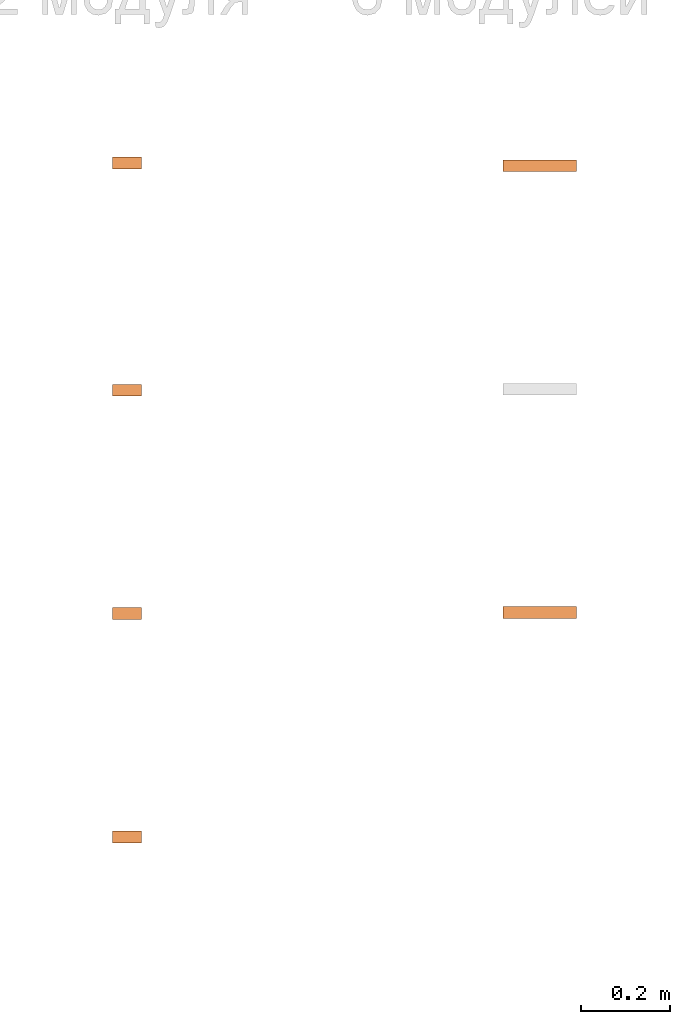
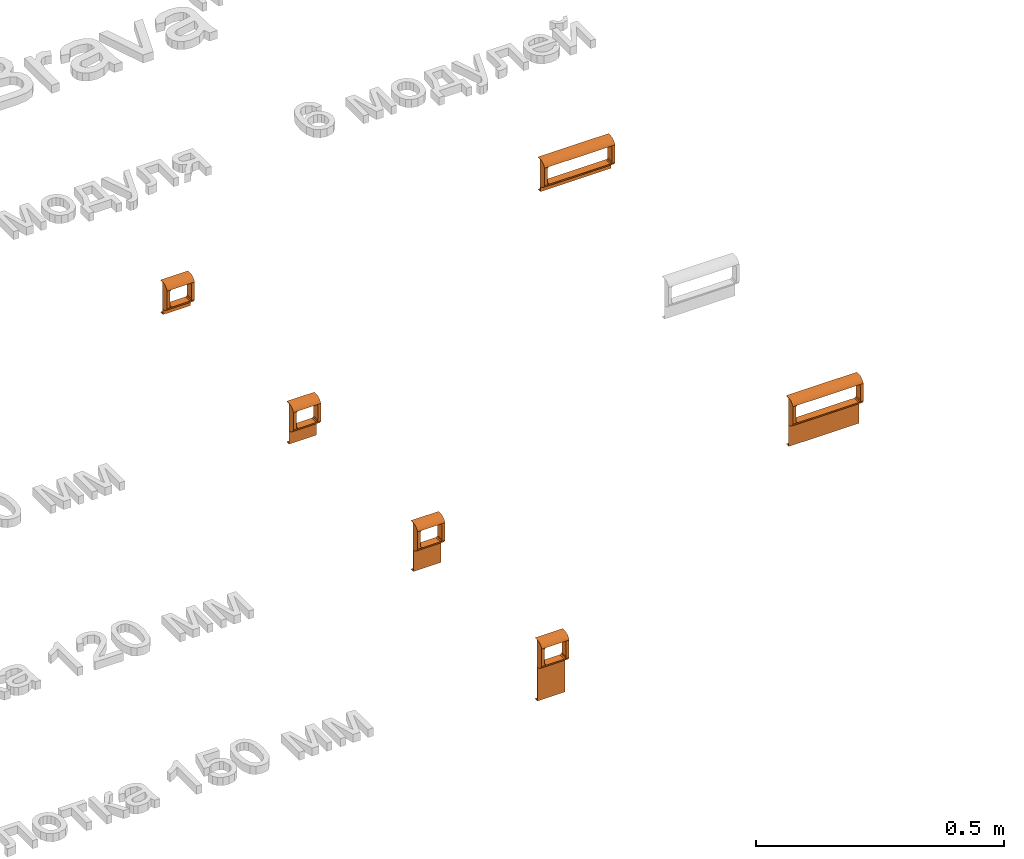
# One storey, part 69 of 71: 6 proxies.
"""IFC2X3 building model written with IfcOpenShell, lengths in millimetres."""

from ifc_helpers import new_model, entity, si_unit, converted_unit, derived_unit, direction, frame, origin, place, context, subcontext, project, spatial, faceted_brep, source, transform, mapped, material, type_object, type_shapes, element, save


model = new_model("IFC2X3")

# Units and contexts
model_context = context("Model", 3, precision=0.01, world=origin(), true_north=direction((6.12303176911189e-17, 1.0)))
body_context = subcontext(model_context, "Body", "Model", "MODEL_VIEW")
ifc_project = project(units=[si_unit("LENGTHUNIT", "METRE", prefix="MILLI"), si_unit("AREAUNIT", "SQUARE_METRE"), si_unit("VOLUMEUNIT", "CUBIC_METRE"), converted_unit("PLANEANGLEUNIT", "DEGREE", entity("IfcRatioMeasure", 0.0174532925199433), si_unit("PLANEANGLEUNIT", "RADIAN"), dimensions=[0, 0, 0, 0, 0, 0, 0]), si_unit("MASSUNIT", "GRAM", prefix="KILO"), derived_unit("MASSDENSITYUNIT", [(si_unit("MASSUNIT", "GRAM", prefix="KILO"), 1), (si_unit("LENGTHUNIT", "METRE"), -3)]), si_unit("TIMEUNIT", "SECOND"), si_unit("FREQUENCYUNIT", "HERTZ"), si_unit("THERMODYNAMICTEMPERATUREUNIT", "DEGREE_CELSIUS"), derived_unit("THERMALTRANSMITTANCEUNIT", [(si_unit("MASSUNIT", "GRAM", prefix="KILO"), 1), (si_unit("THERMODYNAMICTEMPERATUREUNIT", "KELVIN"), -1), (si_unit("TIMEUNIT", "SECOND"), -3)]), derived_unit("VOLUMETRICFLOWRATEUNIT", [(si_unit("LENGTHUNIT", "METRE"), 3), (si_unit("TIMEUNIT", "SECOND"), -1)]), si_unit("ELECTRICCURRENTUNIT", "AMPERE"), si_unit("ELECTRICVOLTAGEUNIT", "VOLT"), si_unit("POWERUNIT", "WATT"), si_unit("FORCEUNIT", "NEWTON", prefix="KILO"), si_unit("ILLUMINANCEUNIT", "LUX"), si_unit("LUMINOUSFLUXUNIT", "LUMEN"), si_unit("LUMINOUSINTENSITYUNIT", "CANDELA"), derived_unit("USERDEFINED", [(si_unit("MASSUNIT", "GRAM", prefix="KILO"), -1), (si_unit("LENGTHUNIT", "METRE"), -2), (si_unit("TIMEUNIT", "SECOND"), 3), (si_unit("LUMINOUSFLUXUNIT", "LUMEN"), 1)]), derived_unit("LINEARVELOCITYUNIT", [(si_unit("LENGTHUNIT", "METRE"), 1), (si_unit("TIMEUNIT", "SECOND"), -1)]), si_unit("PRESSUREUNIT", "PASCAL"), derived_unit("USERDEFINED", [(si_unit("LENGTHUNIT", "METRE"), -2), (si_unit("MASSUNIT", "GRAM", prefix="KILO"), 1), (si_unit("TIMEUNIT", "SECOND"), -2)])], contexts=[model_context])

# Site, building, storey
site_placement = place(None, origin())
site = spatial("IfcSite", under=ifc_project, at=site_placement, Name="Default", CompositionType="ELEMENT")
building_placement = place(site_placement, origin())
building = spatial("IfcBuilding", under=site, at=building_placement, Name="Наименование здания", CompositionType="ELEMENT")
storey_placement = place(building_placement, origin())
storey = spatial("IfcBuildingStorey", under=building, at=storey_placement, Name="Этаж 01", CompositionType="ELEMENT", Elevation=0.0)

# Proxies
ifc_material = material(Name="DKC_Пластик_Белый")
building_element_proxy_type_1 = type_object("IfcBuildingElementProxyType", Name="Серия \"Brava\"", PredefinedType="NOTDEFINED", material=ifc_material)
shared_shape_1 = source(origin(), body_context, "Body", "Brep", [
    faceted_brep([(-23.8192492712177, -18.0, 36.8192492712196), (-20.9686648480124, -18.0, 38.0), (-32.0, -18.0, 38.0), (-32.0, -18.0, -5.0), (-20.9686648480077, -18.0, -5.0), (-23.8192492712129, -18.0, -3.81924927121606), (-25.0, -18.0, -0.968664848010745), (-25.0, -18.0, 33.9686648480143), (32.0, -18.0, 38.0), (20.96866484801, -18.0, 38.0), (23.8192492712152, -18.0, 36.8192492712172), (25.0, -18.0, 33.9686648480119), (25.0, -18.0, -0.968664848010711), (23.8192492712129, -18.0, -3.819249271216), (20.9686648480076, -18.0, -5.0), (32.0, -18.0, -5.0), (32.0, -1.0, -50.0), (32.0, 8.40000000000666, -50.0), (32.0, 8.40000000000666, -49.0), (32.0, 0.0, -49.0), (32.0, 0.0, 49.0), (32.0, 8.40000000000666, 49.0), (32.0, 8.40000000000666, 50.0), (32.0, -1.0, 50.0), (32.0, -5.39126188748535, 49.4574348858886), (32.0, -9.51840787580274, 47.8623725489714), (32.0, -13.133207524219, 45.3107492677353), (32.0, -16.018245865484, 41.9560344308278), (32.0, -16.0182458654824, -8.9560344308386), (32.0, -13.133207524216, -12.3107492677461), (32.0, -9.51840787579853, -14.8623725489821), (32.0, -5.39126188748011, -16.4574348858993), (32.0, -1.0, -17.0), (-32.0, -1.0, 50.0), (-32.0, 8.40000000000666, 50.0), (-32.0, 8.40000000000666, 49.0), (-32.0, 0.0, 49.0), (-32.0, 0.0, -49.0), (-32.0, 8.40000000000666, -49.0), (-32.0, 8.40000000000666, -50.0), (-32.0, -1.0, -50.0), (-32.0, -1.0, -17.0), (-32.0, -5.39126188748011, -16.4574348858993), (-32.0, -9.51840787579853, -14.8623725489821), (-32.0, -13.133207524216, -12.3107492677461), (-32.0, -16.0182458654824, -8.9560344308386), (-32.0, -16.018245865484, 41.9560344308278), (-32.0, -13.133207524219, 45.3107492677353), (-32.0, -9.51840787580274, 47.8623725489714), (-32.0, -5.39126188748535, 49.4574348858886), (25.0, 0.0, -0.968664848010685), (23.8192492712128, 0.0, -3.81924927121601), (20.9686648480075, 0.0, -5.0), (-20.9686648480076, 0.0, -5.0), (-23.819249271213, 0.0, -3.81924927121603), (-25.0, 0.0, -0.968664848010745), (-25.0, 0.0, 33.9686648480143), (-23.8192492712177, 0.0, 36.8192492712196), (-20.9686648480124, 0.0, 38.0), (25.0, 0.0, 33.968664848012), (23.8192492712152, 0.0, 36.8192492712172), (20.96866484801, 0.0, 38.0)], [[[0, 1, 2, 3, 4, 5, 6, 7]], [[8, 9, 10, 11, 12, 13, 14, 15]], [[16, 17, 18, 19, 20, 21, 22, 23, 24, 25, 26, 27, 8, 15, 28, 29, 30, 31, 32]], [[33, 34, 35, 36, 37, 38, 39, 40, 41, 42, 43, 44, 45, 3, 2, 46, 47, 48, 49]], [[22, 21, 35, 34]], [[18, 17, 39, 38]], [[23, 22, 34, 33]], [[16, 32, 41, 40]], [[17, 16, 40, 39]], [[19, 18, 38, 37]], [[19, 50, 20]], [[50, 19, 51]], [[52, 51, 19]], [[19, 53, 52]], [[53, 19, 37]], [[54, 53, 37]], [[37, 55, 54]], [[55, 37, 36]], [[36, 56, 55]], [[56, 36, 57]], [[58, 57, 36]], [[58, 36, 20]], [[59, 20, 50]], [[20, 59, 60]], [[60, 61, 20]], [[20, 61, 58]], [[21, 20, 36, 35]], [[24, 49, 48, 25]], [[25, 48, 47, 26]], [[33, 49, 24, 23]], [[46, 2, 1, 9, 8, 27]], [[26, 47, 46, 27]], [[4, 3, 45, 28, 15, 14]], [[28, 45, 44, 29]], [[30, 43, 42, 31]], [[31, 42, 41, 32]], [[29, 44, 43, 30]], [[58, 61, 9, 1]], [[0, 57, 58, 1]], [[7, 56, 57, 0]], [[56, 7, 6, 55]], [[5, 54, 55, 6]], [[4, 53, 54, 5]], [[53, 4, 14, 52]], [[13, 51, 52, 14]], [[12, 50, 51, 13]], [[50, 12, 11, 59]], [[10, 60, 59, 11]], [[9, 61, 60, 10]]]),
])
type_shapes(building_element_proxy_type_1, [shared_shape_1])
proxy_1_placement = place(storey_placement, frame((7672.40142967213, -12431.8358834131, 0.0)))
element("IfcBuildingElementProxy", 1, at=proxy_1_placement, inside=storey, type_object=building_element_proxy_type_1, material=ifc_material, Name="КНС_РамкаСуппорт_ILC_DKC:Серия \"Brava\"", ObjectType="Серия \"Brava\"", context=body_context, shape_type="MappedRepresentation", body=[
    mapped(shared_shape_1, transform((0.0, 0.0, 0.0), scale=1.0)),
])
building_element_proxy_type_2 = type_object("IfcBuildingElementProxyType", Name="Серия \"Brava\"", PredefinedType="NOTDEFINED", material=ifc_material)
shared_shape_2 = source(origin(), body_context, "Body", "Brep", [
    faceted_brep([(-23.8192492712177, -18.0, 46.8192492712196), (-20.9686648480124, -18.0, 48.0), (-32.0, -18.0, 48.0), (-32.0, -18.0, 5.0), (-20.9686648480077, -18.0, 5.0), (-23.8192492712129, -18.0, 6.18075072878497), (-25.0, -18.0, 9.03133515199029), (-25.0, -18.0, 43.9686648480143), (32.0, -18.0, 48.0), (20.96866484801, -18.0, 48.0), (23.8192492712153, -18.0, 46.8192492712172), (25.0, -18.0, 43.9686648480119), (25.0, -18.0, 9.03133515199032), (23.8192492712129, -18.0, 6.18075072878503), (20.9686648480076, -18.0, 5.0), (32.0, -18.0, 5.0), (32.0, -1.0, -60.0), (32.0, 8.40000000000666, -60.0), (32.0, 8.40000000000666, -59.0), (32.0, 0.0, -59.0), (32.0, 0.0, 59.0), (32.0, 8.40000000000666, 59.0), (32.0, 8.40000000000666, 60.0), (32.0, -1.0, 60.0), (32.0, -5.39126188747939, 59.4574348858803), (32.0, -9.51840787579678, 57.862372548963), (32.0, -13.1332075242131, 55.310749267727), (32.0, -16.018245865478, 51.9560344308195), (32.0, -16.0182458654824, 1.04396556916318), (32.0, -13.133207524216, -2.31074926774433), (32.0, -9.51840787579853, -4.86237254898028), (32.0, -5.39126188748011, -6.45743488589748), (32.0, -1.0, -7.0), (-32.0, -1.0, 60.0), (-32.0, 8.40000000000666, 60.0), (-32.0, 8.40000000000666, 59.0), (-32.0, 0.0, 59.0), (-32.0, 0.0, -59.0), (-32.0, 8.40000000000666, -59.0), (-32.0, 8.40000000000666, -60.0), (-32.0, -1.0, -60.0), (-32.0, -1.0, -7.0), (-32.0, -5.39126188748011, -6.45743488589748), (-32.0, -9.51840787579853, -4.86237254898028), (-32.0, -13.133207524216, -2.31074926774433), (-32.0, -16.0182458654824, 1.04396556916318), (-32.0, -16.018245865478, 51.9560344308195), (-32.0, -13.1332075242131, 55.310749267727), (-32.0, -9.51840787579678, 57.862372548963), (-32.0, -5.39126188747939, 59.4574348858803), (25.0, 0.0, 9.03133515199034), (23.8192492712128, 0.0, 6.18075072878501), (20.9686648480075, 0.0, 5.0), (-20.9686648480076, 0.0, 5.0), (-23.819249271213, 0.0, 6.180750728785), (-25.0, 0.0, 9.03133515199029), (-25.0, 0.0, 43.9686648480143), (-23.8192492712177, 0.0, 46.8192492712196), (-20.9686648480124, 0.0, 48.0), (25.0, 0.0, 43.9686648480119), (23.8192492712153, 0.0, 46.8192492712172), (20.96866484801, 0.0, 48.0)], [[[0, 1, 2, 3, 4, 5, 6, 7]], [[8, 9, 10, 11, 12, 13, 14, 15]], [[16, 17, 18, 19, 20, 21, 22, 23, 24, 25, 26, 27, 8, 15, 28, 29, 30, 31, 32]], [[33, 34, 35, 36, 37, 38, 39, 40, 41, 42, 43, 44, 45, 3, 2, 46, 47, 48, 49]], [[22, 21, 35, 34]], [[18, 17, 39, 38]], [[23, 22, 34, 33]], [[16, 32, 41, 40]], [[17, 16, 40, 39]], [[19, 18, 38, 37]], [[19, 50, 20]], [[50, 19, 51]], [[52, 51, 19]], [[19, 37, 52]], [[53, 52, 37]], [[54, 53, 37]], [[37, 55, 54]], [[55, 37, 36]], [[36, 56, 55]], [[56, 36, 57]], [[58, 57, 36]], [[58, 36, 20]], [[59, 20, 50]], [[20, 59, 60]], [[60, 61, 20]], [[20, 61, 58]], [[21, 20, 36, 35]], [[24, 49, 48, 25]], [[25, 48, 47, 26]], [[33, 49, 24, 23]], [[46, 2, 1, 9, 8, 27]], [[26, 47, 46, 27]], [[4, 3, 45, 28, 15, 14]], [[28, 45, 44, 29]], [[30, 43, 42, 31]], [[31, 42, 41, 32]], [[29, 44, 43, 30]], [[58, 61, 9, 1]], [[0, 57, 58, 1]], [[7, 56, 57, 0]], [[55, 56, 7, 6]], [[5, 54, 55, 6]], [[4, 53, 54, 5]], [[53, 4, 14, 52]], [[13, 51, 52, 14]], [[12, 50, 51, 13]], [[59, 50, 12, 11]], [[10, 60, 59, 11]], [[9, 61, 60, 10]]]),
])
type_shapes(building_element_proxy_type_2, [shared_shape_2])
proxy_2_placement = place(storey_placement, frame((7672.40142967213, -12931.8358834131, 0.0)))
element("IfcBuildingElementProxy", 2, at=proxy_2_placement, inside=storey, type_object=building_element_proxy_type_2, material=ifc_material, Name="КНС_РамкаСуппорт_ILC_DKC:Серия \"Brava\"", ObjectType="Серия \"Brava\"", context=body_context, shape_type="MappedRepresentation", body=[
    mapped(shared_shape_2, transform((0.0, 0.0, 0.0), scale=1.0)),
])
building_element_proxy_type_3 = type_object("IfcBuildingElementProxyType", Name="Серия \"Brava\"", PredefinedType="NOTDEFINED", material=ifc_material)
shared_shape_3 = source(origin(), body_context, "Body", "Brep", [
    faceted_brep([(-23.8192492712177, -18.0, 61.8192492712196), (-20.9686648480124, -18.0, 63.0), (-32.0, -18.0, 63.0), (-32.0, -18.0, 20.0), (-20.9686648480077, -18.0, 20.0), (-23.8192492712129, -18.0, 21.1807507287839), (-25.0, -18.0, 24.0313351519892), (-25.0, -18.0, 58.9686648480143), (32.0, -18.0, 63.0), (20.96866484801, -18.0, 63.0), (23.8192492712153, -18.0, 61.8192492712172), (25.0, -18.0, 58.9686648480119), (25.0, -18.0, 24.0313351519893), (23.8192492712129, -18.0, 21.180750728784), (20.9686648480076, -18.0, 20.0), (32.0, -18.0, 20.0), (32.0, -1.0, -75.0), (32.0, 8.40000000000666, -75.0), (32.0, 8.40000000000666, -74.0), (32.0, 0.0, -74.0), (32.0, 0.0, 74.0), (32.0, 8.40000000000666, 74.0), (32.0, 8.40000000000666, 75.0), (32.0, -1.0, 75.0), (32.0, -5.39126188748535, 74.4574348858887), (32.0, -9.51840787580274, 72.8623725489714), (32.0, -13.133207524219, 70.3107492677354), (32.0, -16.018245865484, 66.9560344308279), (32.0, -16.0182458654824, 16.0439655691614), (32.0, -13.133207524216, 12.6892507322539), (32.0, -9.51840787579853, 10.1376274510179), (32.0, -5.39126188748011, 8.54256511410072), (32.0, -1.0, 8.0), (-32.0, -1.0, 75.0), (-32.0, 8.40000000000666, 75.0), (-32.0, 8.40000000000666, 74.0), (-32.0, 0.0, 74.0), (-32.0, 0.0, -74.0), (-32.0, 8.40000000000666, -74.0), (-32.0, 8.40000000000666, -75.0), (-32.0, -1.0, -75.0), (-32.0, -1.0, 8.0), (-32.0, -5.39126188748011, 8.54256511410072), (-32.0, -9.51840787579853, 10.1376274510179), (-32.0, -13.133207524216, 12.6892507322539), (-32.0, -16.0182458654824, 16.0439655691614), (-32.0, -16.018245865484, 66.9560344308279), (-32.0, -13.133207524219, 70.3107492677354), (-32.0, -9.51840787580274, 72.8623725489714), (-32.0, -5.39126188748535, 74.4574348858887), (25.0, 0.0, 24.0313351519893), (23.8192492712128, 0.0, 21.180750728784), (20.9686648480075, 0.0, 20.0), (-20.9686648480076, 0.0, 20.0), (-23.819249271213, 0.0, 21.1807507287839), (-25.0, 0.0, 24.0313351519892), (-25.0, 0.0, 58.9686648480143), (-23.8192492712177, 0.0, 61.8192492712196), (-20.9686648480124, 0.0, 63.0), (25.0, 0.0, 58.9686648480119), (23.8192492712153, 0.0, 61.8192492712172), (20.96866484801, 0.0, 63.0)], [[[0, 1, 2, 3, 4, 5, 6, 7]], [[8, 9, 10, 11, 12, 13, 14, 15]], [[16, 17, 18, 19, 20, 21, 22, 23, 24, 25, 26, 27, 8, 15, 28, 29, 30, 31, 32]], [[33, 34, 35, 36, 37, 38, 39, 40, 41, 42, 43, 44, 45, 3, 2, 46, 47, 48, 49]], [[22, 21, 35, 34]], [[18, 17, 39, 38]], [[23, 22, 34, 33]], [[16, 32, 41, 40]], [[17, 16, 40, 39]], [[19, 18, 38, 37]], [[19, 50, 20]], [[50, 19, 51]], [[52, 51, 19]], [[19, 37, 52]], [[53, 52, 37]], [[54, 53, 37]], [[37, 55, 54]], [[55, 37, 36]], [[36, 56, 55]], [[56, 36, 57]], [[58, 57, 36]], [[58, 36, 20]], [[59, 20, 50]], [[20, 59, 60]], [[60, 61, 20]], [[20, 61, 58]], [[21, 20, 36, 35]], [[24, 49, 48, 25]], [[25, 48, 47, 26]], [[33, 49, 24, 23]], [[46, 2, 1, 9, 8, 27]], [[26, 47, 46, 27]], [[4, 3, 45, 28, 15, 14]], [[28, 45, 44, 29]], [[30, 43, 42, 31]], [[31, 42, 41, 32]], [[29, 44, 43, 30]], [[58, 61, 9, 1]], [[0, 57, 58, 1]], [[7, 56, 57, 0]], [[56, 7, 6, 55]], [[5, 54, 55, 6]], [[4, 53, 54, 5]], [[53, 4, 14, 52]], [[13, 51, 52, 14]], [[12, 50, 51, 13]], [[50, 12, 11, 59]], [[10, 60, 59, 11]], [[9, 61, 60, 10]]]),
])
type_shapes(building_element_proxy_type_3, [shared_shape_3])
proxy_3_placement = place(storey_placement, frame((7672.40142967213, -13431.8358834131, 0.0)))
element("IfcBuildingElementProxy", 3, at=proxy_3_placement, inside=storey, type_object=building_element_proxy_type_3, material=ifc_material, Name="КНС_РамкаСуппорт_ILC_DKC:Серия \"Brava\"", ObjectType="Серия \"Brava\"", context=body_context, shape_type="MappedRepresentation", body=[
    mapped(shared_shape_3, transform((0.0, 0.0, 0.0), scale=1.0)),
])
building_element_proxy_type_4 = type_object("IfcBuildingElementProxyType", Name="Серия \"Brava\"", PredefinedType="NOTDEFINED", material=ifc_material)
shared_shape_4 = source(origin(), body_context, "Body", "Brep", [
    faceted_brep([(-73.8192492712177, -18.0, 26.8192492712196), (-70.9686648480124, -18.0, 28.0), (-82.0, -18.0, 28.0), (-82.0, -18.0, -15.0), (-70.9686648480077, -18.0, -15.0), (-73.819249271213, -18.0, -13.8192492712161), (-75.0, -18.0, -10.9686648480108), (-75.0, -18.0, 23.9686648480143), (82.0, -18.0, 28.0), (70.96866484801, -18.0, 28.0), (73.8192492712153, -18.0, 26.8192492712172), (75.0, -18.0, 23.9686648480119), (75.0, -18.0, -10.9686648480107), (73.8192492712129, -18.0, -13.819249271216), (70.9686648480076, -18.0, -15.0), (82.0, -18.0, -15.0), (82.0, -1.0, -40.0), (82.0, 8.40000000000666, -40.0), (82.0, 8.40000000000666, -39.0), (82.0, 0.0, -39.0), (82.0, 0.0, 39.0), (82.0, 8.40000000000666, 39.0), (82.0, 8.40000000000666, 40.0), (82.0, -1.0, 40.0), (82.0, -5.39126188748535, 39.4574348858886), (82.0, -9.51840787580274, 37.8623725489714), (82.0, -13.133207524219, 35.3107492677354), (82.0, -16.018245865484, 31.9560344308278), (82.0, -16.0182458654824, -18.9560344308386), (82.0, -13.133207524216, -22.3107492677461), (82.0, -9.51840787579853, -24.8623725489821), (82.0, -5.39126188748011, -26.4574348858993), (82.0, -1.0, -27.0), (-82.0, -1.0, 40.0), (-82.0, 8.40000000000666, 40.0), (-82.0, 8.40000000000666, 39.0), (-82.0, 0.0, 39.0), (-82.0, 0.0, -39.0), (-82.0, 8.40000000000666, -39.0), (-82.0, 8.40000000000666, -40.0), (-82.0, -1.0, -40.0), (-82.0, -1.0, -27.0), (-82.0, -5.39126188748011, -26.4574348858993), (-82.0, -9.51840787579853, -24.8623725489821), (-82.0, -13.133207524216, -22.3107492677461), (-82.0, -16.0182458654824, -18.9560344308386), (-82.0, -16.018245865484, 31.9560344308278), (-82.0, -13.133207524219, 35.3107492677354), (-82.0, -9.51840787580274, 37.8623725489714), (-82.0, -5.39126188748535, 39.4574348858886), (-7.84403318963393, -1.0, 40.0), (7.84408283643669, -1.0, -27.0), (75.0, 0.0, -10.9686648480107), (73.8192492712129, 0.0, -13.819249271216), (70.9686648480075, 0.0, -15.0), (-70.9686648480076, 0.0, -15.0), (-73.819249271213, 0.0, -13.8192492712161), (-75.0, 0.0, -10.9686648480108), (-75.0, 0.0, 23.9686648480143), (-73.8192492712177, 0.0, 26.8192492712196), (-70.9686648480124, 0.0, 28.0), (75.0, 0.0, 23.9686648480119), (73.8192492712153, 0.0, 26.8192492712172), (70.96866484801, 0.0, 28.0), (-1.05664262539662e-07, -7.50391799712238, 38.7869038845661), (10.4878486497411, -16.6040193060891, 31.0146194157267), (0.0, -18.0, 28.0), (-8.03406364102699e-08, -11.4043260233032, 36.6977951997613), (6.74915888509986e-08, -14.6789576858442, 33.7221699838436), (-10.70410463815, -4.3234931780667, 39.6912442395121), (-10.4878486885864, -16.6040193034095, -18.0146194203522), (0.0, -18.0, -15.0), (-2.78578905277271e-08, -14.6789576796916, -20.7221699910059), (2.4966060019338e-08, -11.4043260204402, -23.6977952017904), (10.7041051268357, -4.32349317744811, -26.6912442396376), (-2.08968483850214e-08, -7.50391799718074, -25.7869038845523)], [[[0, 1, 2, 3, 4, 5, 6, 7]], [[8, 9, 10, 11, 12, 13, 14, 15]], [[16, 17, 18, 19, 20, 21, 22, 23, 24, 25, 26, 27, 8, 15, 28, 29, 30, 31, 32]], [[33, 34, 35, 36, 37, 38, 39, 40, 41, 42, 43, 44, 45, 3, 2, 46, 47, 48, 49]], [[22, 21, 35, 34]], [[18, 17, 39, 38]], [[23, 22, 34, 33, 50]], [[16, 32, 51, 41, 40]], [[17, 16, 40, 39]], [[19, 18, 38, 37]], [[19, 52, 20]], [[52, 19, 53]], [[54, 53, 19]], [[19, 37, 54]], [[55, 54, 37]], [[56, 55, 37]], [[37, 57, 56]], [[57, 37, 36]], [[36, 58, 57]], [[58, 36, 59]], [[60, 59, 36]], [[60, 36, 20]], [[61, 20, 52]], [[20, 61, 62]], [[62, 63, 20]], [[20, 63, 60]], [[21, 20, 36, 35]], [[64, 49, 48]], [[9, 65, 1, 66]], [[67, 48, 47]], [[67, 47, 68]], [[69, 49, 64]], [[23, 69, 24]], [[68, 26, 67]], [[25, 24, 64]], [[64, 67, 25]], [[26, 25, 67]], [[46, 2, 1]], [[9, 8, 27]], [[33, 69, 23, 50]], [[64, 48, 67]], [[27, 65, 9]], [[26, 68, 27]], [[68, 65, 27]], [[65, 46, 1]], [[24, 69, 64]], [[68, 47, 46]], [[46, 65, 68]], [[33, 49, 69]], [[4, 3, 45]], [[28, 15, 14]], [[4, 70, 14, 71]], [[72, 45, 44]], [[72, 44, 73]], [[70, 45, 72]], [[74, 42, 41]], [[45, 70, 4]], [[29, 28, 72]], [[75, 43, 42]], [[32, 74, 41, 51]], [[42, 74, 75]], [[74, 32, 31]], [[29, 73, 30]], [[75, 73, 43]], [[75, 31, 30]], [[74, 31, 75]], [[73, 29, 72]], [[70, 28, 14]], [[73, 44, 43]], [[28, 70, 72]], [[73, 75, 30]], [[63, 9, 66, 1, 60]], [[0, 59, 60, 1]], [[7, 58, 59, 0]], [[58, 7, 6, 57]], [[5, 56, 57, 6]], [[4, 55, 56, 5]], [[55, 4, 71, 14, 54]], [[13, 53, 54, 14]], [[12, 52, 53, 13]], [[61, 52, 12, 11]], [[10, 62, 61, 11]], [[9, 63, 62, 10]]]),
])
type_shapes(building_element_proxy_type_4, [shared_shape_4])
proxy_4_placement = place(storey_placement, frame((8596.33711785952, -11929.6171991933, 0.0)))
element("IfcBuildingElementProxy", 4, at=proxy_4_placement, inside=storey, type_object=building_element_proxy_type_4, material=ifc_material, Name="КНС_РамкаСуппорт_ILC_DKC:Серия \"Brava\"", ObjectType="Серия \"Brava\"", context=body_context, shape_type="MappedRepresentation", body=[
    mapped(shared_shape_4, transform((0.0, 0.0, 0.0), scale=1.0)),
])
building_element_proxy_type_5 = type_object("IfcBuildingElementProxyType", Name="Серия \"Brava\"", PredefinedType="NOTDEFINED", material=ifc_material)
shared_shape_5 = source(origin(), body_context, "Body", "Brep", [
    faceted_brep([(-73.8192492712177, -18.0, 46.8192492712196), (-70.9686648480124, -18.0, 48.0), (-82.0, -18.0, 48.0), (-82.0, -18.0, 5.0), (-70.9686648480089, -18.0, 5.0), (-73.8192492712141, -18.0, 6.18075072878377), (-75.0, -18.0, 9.03133515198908), (-75.0, -18.0, 43.9686648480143), (82.0, -18.0, 48.0), (70.9686648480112, -18.0, 48.0), (73.8192492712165, -18.0, 46.8192492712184), (75.0, -18.0, 43.9686648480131), (75.0, -18.0, 9.03133515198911), (73.8192492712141, -18.0, 6.18075072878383), (70.9686648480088, -18.0, 5.0), (82.0, -18.0, 5.0), (82.0, -1.0, -60.0), (82.0, 8.40000000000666, -60.0), (82.0, 8.40000000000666, -59.0), (82.0, 0.0, -59.0), (82.0, 0.0, 59.0), (82.0, 8.40000000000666, 59.0), (82.0, 8.40000000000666, 60.0), (82.0, -1.0, 60.0), (82.0, -5.39126188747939, 59.4574348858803), (82.0, -9.51840787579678, 57.862372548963), (82.0, -13.1332075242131, 55.310749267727), (82.0, -16.018245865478, 51.9560344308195), (82.0, -16.0182458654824, 1.04396556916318), (82.0, -13.133207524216, -2.31074926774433), (82.0, -9.51840787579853, -4.86237254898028), (82.0, -5.39126188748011, -6.45743488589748), (82.0, -1.0, -7.0), (-82.0, -1.0, 60.0), (-82.0, 8.40000000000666, 60.0), (-82.0, 8.40000000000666, 59.0), (-82.0, 0.0, 59.0), (-82.0, 0.0, -59.0), (-82.0, 8.40000000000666, -59.0), (-82.0, 8.40000000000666, -60.0), (-82.0, -1.0, -60.0), (-82.0, -1.0, -7.0), (-82.0, -5.39126188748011, -6.45743488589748), (-82.0, -9.51840787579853, -4.86237254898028), (-82.0, -13.133207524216, -2.31074926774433), (-82.0, -16.0182458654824, 1.04396556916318), (-82.0, -16.018245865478, 51.9560344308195), (-82.0, -13.1332075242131, 55.310749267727), (-82.0, -9.51840787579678, 57.862372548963), (-82.0, -5.39126188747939, 59.4574348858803), (-7.84403318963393, -1.0, 60.0), (7.84408283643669, -1.0, -7.0), (75.0, 0.0, 9.03133515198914), (73.819249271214, 0.0, 6.1807507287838), (70.9686648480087, 0.0, 5.0), (-70.9686648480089, 0.0, 5.0), (-73.8192492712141, 0.0, 6.18075072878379), (-75.0, 0.0, 9.03133515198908), (-75.0, 0.0, 43.9686648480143), (-73.8192492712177, 0.0, 46.8192492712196), (-70.9686648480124, 0.0, 48.0), (75.0, 0.0, 43.9686648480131), (73.8192492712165, 0.0, 46.8192492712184), (70.9686648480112, 0.0, 48.0), (-1.05664262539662e-07, -7.50391799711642, 58.7869038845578), (10.4878486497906, -16.6040193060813, 51.0146194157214), (0.0, -18.0, 48.0), (-8.03406533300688e-08, -11.4043260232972, 56.6977951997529), (6.74916057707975e-08, -14.6789576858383, 53.7221699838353), (-10.7041046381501, -4.32349317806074, 59.6912442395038), (-10.487848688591, -16.6040193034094, 1.98538057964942), (0.0, -18.0, 5.0), (-2.78578905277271e-08, -14.6789576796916, -0.722169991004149), (2.49660769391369e-08, -11.4043260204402, -3.69779520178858), (10.7041051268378, -4.32349317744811, -6.69124423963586), (-2.08968483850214e-08, -7.50391799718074, -5.78690388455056)], [[[0, 1, 2, 3, 4, 5, 6, 7]], [[8, 9, 10, 11, 12, 13, 14, 15]], [[16, 17, 18, 19, 20, 21, 22, 23, 24, 25, 26, 27, 8, 15, 28, 29, 30, 31, 32]], [[33, 34, 35, 36, 37, 38, 39, 40, 41, 42, 43, 44, 45, 3, 2, 46, 47, 48, 49]], [[22, 21, 35, 34]], [[18, 17, 39, 38]], [[22, 34, 33, 50, 23]], [[16, 32, 51, 41, 40]], [[17, 16, 40, 39]], [[19, 18, 38, 37]], [[19, 52, 20]], [[52, 19, 53]], [[54, 53, 19]], [[19, 37, 54]], [[55, 54, 37]], [[56, 55, 37]], [[37, 57, 56]], [[57, 37, 36]], [[36, 58, 57]], [[58, 36, 59]], [[60, 59, 36]], [[60, 36, 20]], [[61, 20, 52]], [[20, 61, 62]], [[62, 63, 20]], [[20, 63, 60]], [[21, 20, 36, 35]], [[64, 49, 48]], [[9, 65, 1, 66]], [[67, 48, 47]], [[67, 47, 68]], [[69, 49, 64]], [[23, 69, 24]], [[68, 26, 67]], [[25, 24, 64]], [[64, 67, 25]], [[26, 25, 67]], [[46, 2, 1]], [[9, 8, 27]], [[33, 69, 23, 50]], [[64, 48, 67]], [[27, 65, 9]], [[26, 68, 27]], [[68, 65, 27]], [[65, 46, 1]], [[24, 69, 64]], [[68, 47, 46]], [[46, 65, 68]], [[33, 49, 69]], [[4, 3, 45]], [[28, 15, 14]], [[4, 70, 14, 71]], [[72, 45, 44]], [[72, 44, 73]], [[70, 45, 72]], [[74, 42, 41]], [[45, 70, 4]], [[29, 28, 72]], [[75, 43, 42]], [[32, 74, 41, 51]], [[42, 74, 75]], [[74, 32, 31]], [[29, 73, 30]], [[75, 73, 43]], [[75, 31, 30]], [[74, 31, 75]], [[73, 29, 72]], [[70, 28, 14]], [[73, 44, 43]], [[28, 70, 72]], [[73, 75, 30]], [[60, 63, 9, 66, 1]], [[0, 59, 60, 1]], [[7, 58, 59, 0]], [[58, 7, 6, 57]], [[5, 56, 57, 6]], [[4, 55, 56, 5]], [[55, 4, 71, 14, 54]], [[13, 53, 54, 14]], [[12, 52, 53, 13]], [[52, 12, 11, 61]], [[10, 62, 61, 11]], [[9, 63, 62, 10]]]),
])
type_shapes(building_element_proxy_type_5, [shared_shape_5])
proxy_5_placement = place(storey_placement, frame((8596.33711785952, -12929.6171991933, 0.0)))
element("IfcBuildingElementProxy", 5, at=proxy_5_placement, inside=storey, type_object=building_element_proxy_type_5, material=ifc_material, Name="КНС_РамкаСуппорт_ILC_DKC:Серия \"Brava\"", ObjectType="Серия \"Brava\"", context=body_context, shape_type="MappedRepresentation", body=[
    mapped(shared_shape_5, transform((0.0, 0.0, 0.0), scale=1.0)),
])
building_element_proxy_type_6 = type_object("IfcBuildingElementProxyType", Name="Серия \"Brava\"", PredefinedType="NOTDEFINED", material=ifc_material)
shared_shape_6 = source(origin(), body_context, "Body", "Brep", [
    faceted_brep([(-23.8192492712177, -18.0, 26.8192492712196), (-20.9686648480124, -18.0, 28.0), (-32.0, -18.0, 28.0), (-32.0, -18.0, -15.0), (-20.9686648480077, -18.0, -15.0), (-23.8192492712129, -18.0, -13.819249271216), (-25.0, -18.0, -10.9686648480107), (-25.0, -18.0, 23.9686648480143), (32.0, -18.0, 28.0), (20.96866484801, -18.0, 28.0), (23.8192492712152, -18.0, 26.8192492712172), (25.0, -18.0, 23.9686648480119), (25.0, -18.0, -10.9686648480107), (23.8192492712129, -18.0, -13.819249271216), (20.9686648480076, -18.0, -15.0), (32.0, -18.0, -15.0), (32.0, -1.0, -40.0), (32.0, 8.40000000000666, -40.0), (32.0, 8.40000000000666, -39.0), (32.0, 0.0, -39.0), (32.0, 0.0, 39.0), (32.0, 8.40000000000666, 39.0), (32.0, 8.40000000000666, 40.0), (32.0, -1.0, 40.0), (32.0, -5.39126188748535, 39.4574348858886), (32.0, -9.51840787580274, 37.8623725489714), (32.0, -13.133207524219, 35.3107492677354), (32.0, -16.018245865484, 31.9560344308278), (32.0, -16.0182458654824, -18.9560344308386), (32.0, -13.133207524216, -22.3107492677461), (32.0, -9.51840787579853, -24.8623725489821), (32.0, -5.39126188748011, -26.4574348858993), (32.0, -1.0, -27.0), (-32.0, -1.0, 40.0), (-32.0, 8.40000000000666, 40.0), (-32.0, 8.40000000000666, 39.0), (-32.0, 0.0, 39.0), (-32.0, 0.0, -39.0), (-32.0, 8.40000000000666, -39.0), (-32.0, 8.40000000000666, -40.0), (-32.0, -1.0, -40.0), (-32.0, -1.0, -27.0), (-32.0, -5.39126188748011, -26.4574348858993), (-32.0, -9.51840787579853, -24.8623725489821), (-32.0, -13.133207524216, -22.3107492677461), (-32.0, -16.0182458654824, -18.9560344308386), (-32.0, -16.018245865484, 31.9560344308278), (-32.0, -13.133207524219, 35.3107492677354), (-32.0, -9.51840787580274, 37.8623725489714), (-32.0, -5.39126188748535, 39.4574348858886), (25.0, 0.0, -10.9686648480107), (23.8192492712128, 0.0, -13.819249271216), (20.9686648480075, 0.0, -15.0), (-20.9686648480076, 0.0, -15.0), (-23.819249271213, 0.0, -13.819249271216), (-25.0, 0.0, -10.9686648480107), (-25.0, 0.0, 23.9686648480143), (-23.8192492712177, 0.0, 26.8192492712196), (-20.9686648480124, 0.0, 28.0), (25.0, 0.0, 23.9686648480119), (23.8192492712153, 0.0, 26.8192492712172), (20.96866484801, 0.0, 28.0)], [[[0, 1, 2, 3, 4, 5, 6, 7]], [[8, 9, 10, 11, 12, 13, 14, 15]], [[16, 17, 18, 19, 20, 21, 22, 23, 24, 25, 26, 27, 8, 15, 28, 29, 30, 31, 32]], [[33, 34, 35, 36, 37, 38, 39, 40, 41, 42, 43, 44, 45, 3, 2, 46, 47, 48, 49]], [[22, 21, 35, 34]], [[18, 17, 39, 38]], [[23, 22, 34, 33]], [[16, 32, 41, 40]], [[17, 16, 40, 39]], [[19, 18, 38, 37]], [[19, 50, 20]], [[50, 19, 51]], [[52, 51, 19]], [[19, 53, 52]], [[53, 19, 37]], [[54, 53, 37]], [[37, 55, 54]], [[55, 37, 36]], [[36, 56, 55]], [[56, 36, 57]], [[58, 57, 36]], [[58, 36, 20]], [[59, 20, 50]], [[20, 59, 60]], [[60, 61, 20]], [[20, 61, 58]], [[21, 20, 36, 35]], [[24, 49, 48, 25]], [[25, 48, 47, 26]], [[33, 49, 24, 23]], [[46, 2, 1, 9, 8, 27]], [[26, 47, 46, 27]], [[4, 3, 45, 28, 15, 14]], [[28, 45, 44, 29]], [[30, 43, 42, 31]], [[31, 42, 41, 32]], [[29, 44, 43, 30]], [[58, 61, 9, 1]], [[0, 57, 58, 1]], [[7, 56, 57, 0]], [[56, 7, 6, 55]], [[5, 54, 55, 6]], [[4, 53, 54, 5]], [[53, 4, 14, 52]], [[13, 51, 52, 14]], [[12, 50, 51, 13]], [[59, 50, 12, 11]], [[10, 60, 59, 11]], [[9, 61, 60, 10]]]),
])
type_shapes(building_element_proxy_type_6, [shared_shape_6])
proxy_6_placement = place(storey_placement, frame((7672.40142967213, -11923.4358834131, 0.0)))
element("IfcBuildingElementProxy", 6, at=proxy_6_placement, inside=storey, type_object=building_element_proxy_type_6, material=ifc_material, Name="КНС_РамкаСуппорт_ILC_DKC:Серия \"Brava\"", ObjectType="Серия \"Brava\"", context=body_context, shape_type="MappedRepresentation", body=[
    mapped(shared_shape_6, transform((0.0, 0.0, 0.0), scale=1.0)),
])

save(model, "model.ifc")
